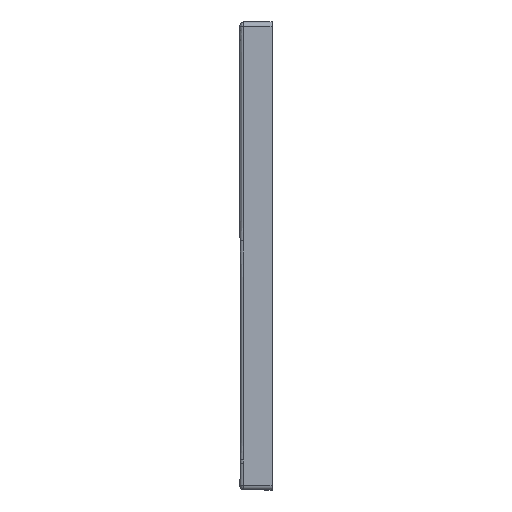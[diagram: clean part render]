
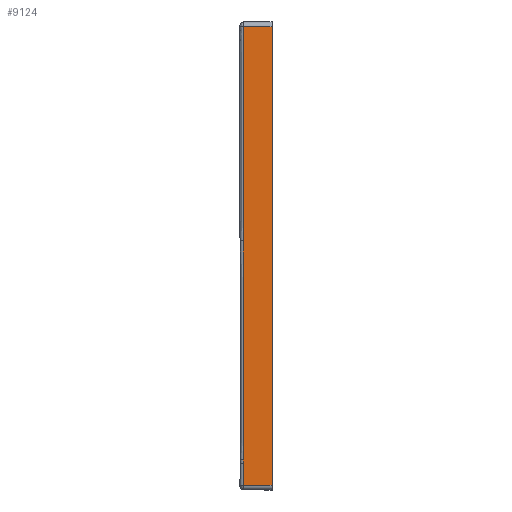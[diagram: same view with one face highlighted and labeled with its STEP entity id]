
A CAD part, left-side view. The second image highlights one B-rep face of the part: STEP entity #9124.
In plain terms, the highlighted planar face has unit normal (-1, 0, 0).
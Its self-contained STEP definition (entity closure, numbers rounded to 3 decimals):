
#1916=DIRECTION('',(0.,0.,-1.));
#1917=VECTOR('',#1916,5.011);
#1918=CARTESIAN_POINT('',(-500.,-5.166,45.));
#1919=LINE('',#1918,#1917);
#1932=CARTESIAN_POINT('',(-500.,-5.166,45.));
#1933=CARTESIAN_POINT('',(-500.,-5.166,
48.795));
#1934=CARTESIAN_POINT('',(-500.,-5.165,
56.629));
#1935=CARTESIAN_POINT('',(-500.,-5.165,
69.322));
#1936=CARTESIAN_POINT('',(-500.,-5.163,82.32));
#1937=CARTESIAN_POINT('',(-500.,-5.161,96.146));
#1938=CARTESIAN_POINT('',(-500.,-5.159,111.169));
#1939=CARTESIAN_POINT('',(-500.,-5.156,125.854));
#1940=CARTESIAN_POINT('',(-500.,-5.152,140.793));
#1941=CARTESIAN_POINT('',(-500.,-5.148,155.635));
#1942=CARTESIAN_POINT('',(-500.,-5.144,170.092));
#1943=CARTESIAN_POINT('',(-500.,-5.14,181.979));
#1944=CARTESIAN_POINT('',(-500.,-5.136,193.786));
#1945=CARTESIAN_POINT('',(-500.,-5.132,205.963));
#1946=CARTESIAN_POINT('',(-500.,-5.128,216.766));
#1947=CARTESIAN_POINT('',(-500.,-5.124,228.191));
#1948=CARTESIAN_POINT('',(-500.,-5.119,239.964));
#1949=CARTESIAN_POINT('',(-500.,-5.114,252.823));
#1950=CARTESIAN_POINT('',(-500.,-5.11,264.501));
#1951=CARTESIAN_POINT('',(-500.,-5.105,277.605));
#1952=CARTESIAN_POINT('',(-500.,-5.1,290.099));
#1953=CARTESIAN_POINT('',(-500.,-5.095,303.472));
#1954=CARTESIAN_POINT('',(-500.,-5.09,316.592));
#1955=CARTESIAN_POINT('',(-500.,-5.085,329.884));
#1956=CARTESIAN_POINT('',(-500.,-5.079,
343.799));
#1957=CARTESIAN_POINT('',(-500.,-5.074,
357.486));
#1958=CARTESIAN_POINT('',(-500.,-5.071,
367.419));
#1959=CARTESIAN_POINT('',(-500.,-5.069,372.508));
#1961=CARTESIAN_POINT('',(-500.,-5.069,372.508));
#1962=CARTESIAN_POINT('',(-500.,-5.064,385.181));
#1963=CARTESIAN_POINT('',(-500.,-5.056,
409.38));
#1964=CARTESIAN_POINT('',(-500.,-5.044,
444.435));
#1965=CARTESIAN_POINT('',(-500.,-5.034,
477.475));
#1966=CARTESIAN_POINT('',(-500.,-5.026,
509.693));
#1967=CARTESIAN_POINT('',(-500.,-5.018,
541.526));
#1968=CARTESIAN_POINT('',(-500.,-5.012,
572.574));
#1969=CARTESIAN_POINT('',(-500.,-5.007,
601.801));
#1970=CARTESIAN_POINT('',(-500.,-5.004,
628.406));
#1971=CARTESIAN_POINT('',(-500.,-5.002,
652.019));
#1972=CARTESIAN_POINT('',(-500.,-5.001,
673.206));
#1973=CARTESIAN_POINT('',(-500.,-5.,
686.544));
#1974=CARTESIAN_POINT('',(-500.,-5.,
693.));
#1976=DIRECTION('',(0.,0.,-1.));
#1977=VECTOR('',#1976,686.);
#1978=CARTESIAN_POINT('',(-500.,-48.,693.));
#1979=LINE('',#1978,#1977);
#1980=DIRECTION('',(0.,1.,0.));
#1981=VECTOR('',#1980,42.971);
#1982=CARTESIAN_POINT('',(-500.,-48.,7.));
#1983=LINE('',#1982,#1981);
#1984=DIRECTION('',(0.,-0.004,1.));
#1985=VECTOR('',#1984,32.99);
#1986=CARTESIAN_POINT('',(-500.,-5.029,
7.));
#1987=LINE('',#1986,#1985);
#2726=DIRECTION('',(0.,1.,0.));
#2727=VECTOR('',#2726,43.);
#2728=CARTESIAN_POINT('',(-500.,-48.,693.));
#2729=LINE('',#2728,#2727);
#5993=CARTESIAN_POINT('',(-500.,-5.166,45.));
#5994=VERTEX_POINT('',#5993);
#5995=CARTESIAN_POINT('',(-500.,-5.166,
39.989));
#5996=VERTEX_POINT('',#5995);
#5997=VERTEX_POINT('',#1959);
#5999=VERTEX_POINT('',#1974);
#6000=CARTESIAN_POINT('',(-500.,-48.,693.));
#6001=VERTEX_POINT('',#6000);
#6002=CARTESIAN_POINT('',(-500.,-48.,7.));
#6003=VERTEX_POINT('',#6002);
#6004=CARTESIAN_POINT('',(-500.,-5.029,
7.));
#6005=VERTEX_POINT('',#6004);
#9105=CARTESIAN_POINT('',(-500.,0.,0.));
#9106=DIRECTION('',(-1.,0.,0.));
#9107=DIRECTION('',(0.,0.,1.));
#9108=AXIS2_PLACEMENT_3D('',#9105,#9106,#9107);
#9109=PLANE('',#9108);
#9110=ORIENTED_EDGE('',*,*,#9035,.F.);
#9111=ORIENTED_EDGE('',*,*,#9095,.T.);
#9113=ORIENTED_EDGE('',*,*,#9112,.T.);
#9115=ORIENTED_EDGE('',*,*,#9114,.F.);
#9117=ORIENTED_EDGE('',*,*,#9116,.T.);
#9119=ORIENTED_EDGE('',*,*,#9118,.T.);
#9121=ORIENTED_EDGE('',*,*,#9120,.T.);
#9122=EDGE_LOOP('',(#9110,#9111,#9113,#9115,#9117,#9119,#9121));
#9123=FACE_OUTER_BOUND('',#9122,.F.);
#9124=ADVANCED_FACE('',(#9123),#9109,.T.);
#1960=B_SPLINE_CURVE_WITH_KNOTS('',3,(#1932,#1933,#1934,#1935,#1936,#1937,#1938,
#1939,#1940,#1941,#1942,#1943,#1944,#1945,#1946,#1947,#1948,#1949,#1950,#1951,
#1952,#1953,#1954,#1955,#1956,#1957,#1958,#1959),.UNSPECIFIED.,.F.,.F.,(4,1,1,1,
1,1,1,1,1,1,1,1,1,1,1,1,1,1,1,1,1,1,1,1,1,4),(0.,0.04,0.08,0.12,0.16,
0.2,0.24,0.28,0.32,0.36,0.4,0.44,0.48,0.52,0.56,0.6,
0.64,0.68,0.72,0.76,0.8,0.84,0.88,0.92,0.96,1.),
.UNSPECIFIED.);
#1975=B_SPLINE_CURVE_WITH_KNOTS('',3,(#1961,#1962,#1963,#1964,#1965,#1966,#1967,
#1968,#1969,#1970,#1971,#1972,#1973,#1974),.UNSPECIFIED.,.F.,.F.,(4,1,1,1,1,1,1,
1,1,1,1,4),(0.,0.119,0.227,0.328,
0.428,0.528,0.626,0.719,
0.802,0.875,0.94,1.),.UNSPECIFIED.);
#9035=EDGE_CURVE('',#5994,#5996,#1919,.T.);
#9095=EDGE_CURVE('',#5994,#5997,#1960,.T.);
#9112=EDGE_CURVE('',#5997,#5999,#1975,.T.);
#9114=EDGE_CURVE('',#6001,#5999,#2729,.T.);
#9116=EDGE_CURVE('',#6001,#6003,#1979,.T.);
#9118=EDGE_CURVE('',#6003,#6005,#1983,.T.);
#9120=EDGE_CURVE('',#6005,#5996,#1987,.T.);
